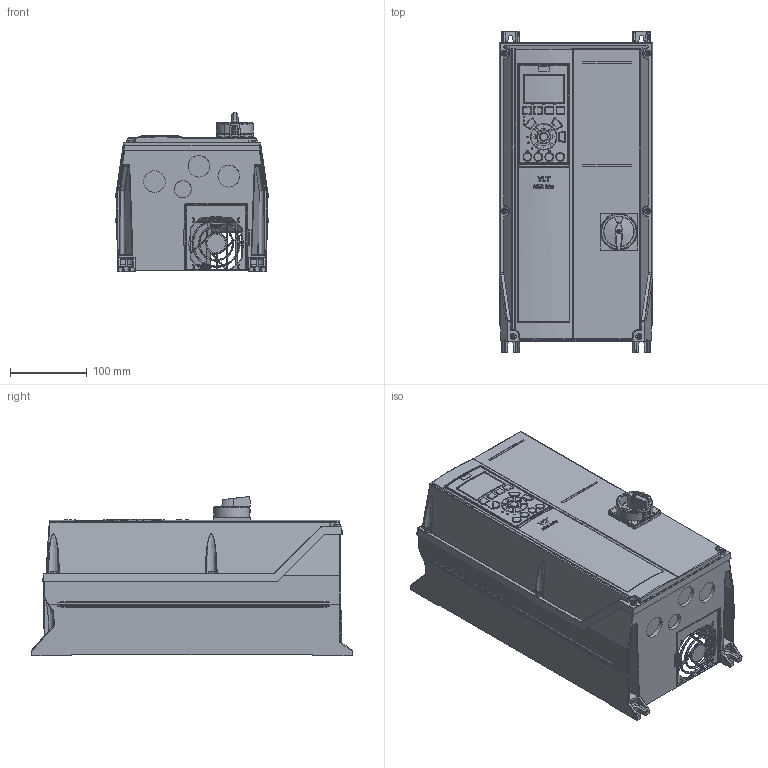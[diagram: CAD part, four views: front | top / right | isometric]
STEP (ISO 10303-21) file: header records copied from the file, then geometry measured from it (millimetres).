
FILE_DESCRIPTION((''),'2;1');
FILE_NAME('DANFOSS-FC200-A4-SWITCH','2011-09-21T',('cstephenkumar'),('Be-Atch INC. 1993'),'PRO/ENGINEER BY PARAMETRIC TECHNOLOGY CORPORATION, 2009360','PRO/ENGINEER BY PARAMETRIC TECHNOLOGY CORPORATION, 2009360','');
FILE_SCHEMA(('AUTOMOTIVE_DESIGN { 1 0 10303 214 1 1 1 1 }'));
Products named in the file (1): DANFOSS-FC200-A4-SWITCH
Bounding box: 200 x 420 x 207.82 mm (x, y, z)
Volume: 10387819.5 mm3; surface area: 744911.1 mm2
Topology: 1 solids, 22 shells, 3623 faces, 9182 edges, 5651 vertices
Faces by surface type: plane 1328, cylinder 1020, bspline 803, torus 159, extrusion 155, cone 95, sphere 63
Entity records: 154053 total; most frequent: CARTESIAN_POINT 70283, ORIENTED_EDGE 18328, DIRECTION 14340, EDGE_CURVE 9164, VERTEX_POINT 5649, AXIS2_PLACEMENT_3D 4924, VECTOR 4492, LINE 4337
